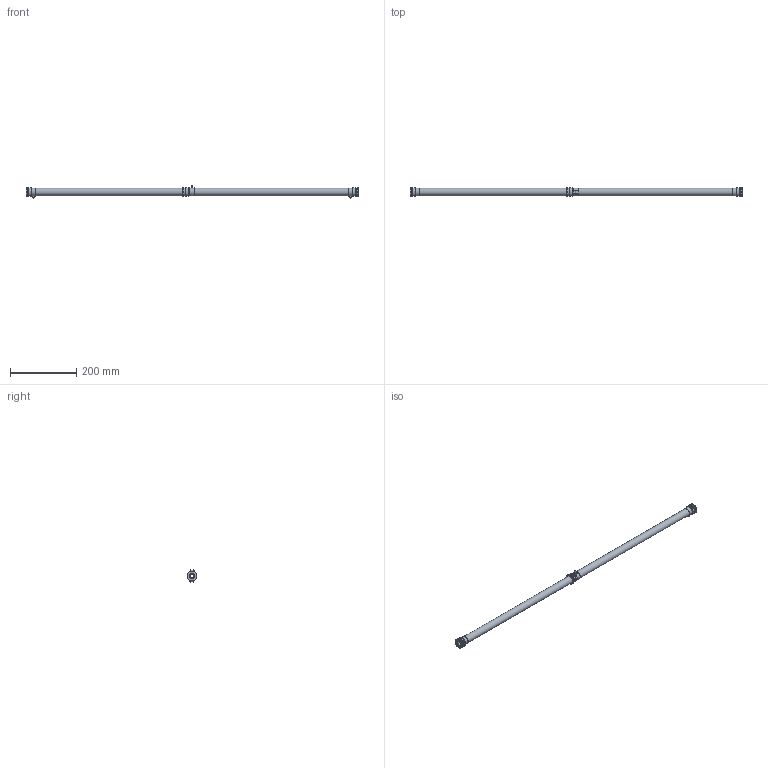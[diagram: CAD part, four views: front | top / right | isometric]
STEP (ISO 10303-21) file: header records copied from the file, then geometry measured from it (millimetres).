
FILE_DESCRIPTION( ( 'Unknown' ), '1' );
FILE_NAME( 'X:/Daten ( aktueller Bestand )/Projekte und Zeichnungen/Solid Edge/6 Verbindungsbauteile/PVC/2022.stp', 'Unknown', ( 'Unknown' ), ( 'Unknown' ), 'XStep 1.0', 'Unknown', ' ' );
FILE_SCHEMA( ( 'automotive_design' ) );
Length unit declared in the file: millimetre
Products named in the file (4): Assem1; 2061; 2071; 2022-1
Bounding box: 1000 x 30 x 36.27 mm (x, y, z)
Volume: 379777.1 mm3; surface area: 260817.8 mm2
Topology: 8 solids, 8 shells, 116 faces, 240 edges, 155 vertices
Faces by surface type: plane 70, cylinder 37, cone 9
Full cylindrical faces by diameter (mm): 12.5 x3, 16.5 x5, 17.2 x3, 17.3 x3, 19 x3, 22.5 x2, 23 x3, 27 x3, 30 x3
Entity records: 1217 total; most frequent: DIRECTION 188, CARTESIAN_POINT 168, ORIENTED_EDGE 138, AXIS2_PLACEMENT_3D 73, EDGE_CURVE 69, EDGE_LOOP 64, VERTEX_POINT 53, FACE_OUTER_BOUND 50
